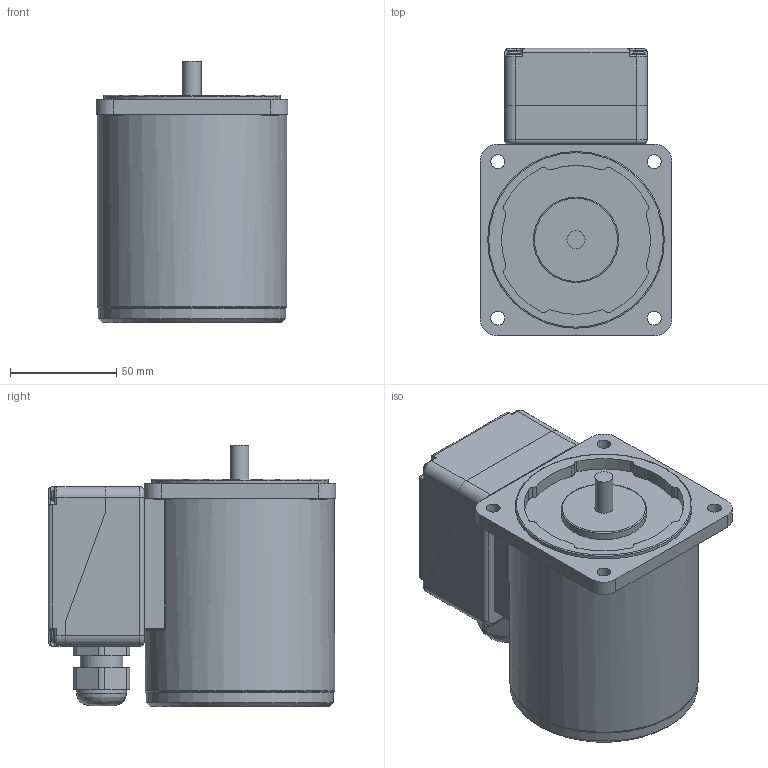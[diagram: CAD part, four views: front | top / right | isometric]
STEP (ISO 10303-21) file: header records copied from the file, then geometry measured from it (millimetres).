
FILE_DESCRIPTION((''),'2;1');
FILE_NAME('E:\2공장-도면\3D\표준형 3D(민규)\step file\K9IG40Nㅁ-T5.stp','2014-11-12T17:52:43',('AHN'),(''),'Autodesk Inventor 2012','Autodesk Inventor 2012','');
FILE_SCHEMA(('CONFIG_CONTROL_DESIGN'));
Length unit declared in the file: millimetre
Products named in the file (5): K9IG40Nㅁ-T5; BASE(a); COVER(a); K9IG40Nㅁ; 케이블
Assembly tree (4 placements, depth 2):
  K9IG40Nㅁ-T5
    BASE(a)
    COVER(a)
    K9IG40Nㅁ
    케이블
Bounding box: 90 x 135 x 123 mm (x, y, z)
Volume: 748221.4 mm3; surface area: 93617.8 mm2
Topology: 4 solids, 4 shells, 507 faces, 1271 edges, 782 vertices
Faces by surface type: cylinder 232, plane 130, torus 95, bspline 21, sphere 20, cone 9
Full cylindrical faces by diameter (mm): 3.242 x4, 3.5 x4, 4.5 x4, 5.5 x4, 6.5 x4, 8 x4, 8.47 x1, 20 x1, 21 x1, 23.5 x1, 40 x1, 83 x1, 88 x1, 89 x1
Entity records: 15861 total; most frequent: CARTESIAN_POINT 3554, DIRECTION 2805, ORIENTED_EDGE 2384, EDGE_CURVE 1192, AXIS2_PLACEMENT_3D 1153, VERTEX_POINT 763, CIRCLE 650, EDGE_LOOP 595
